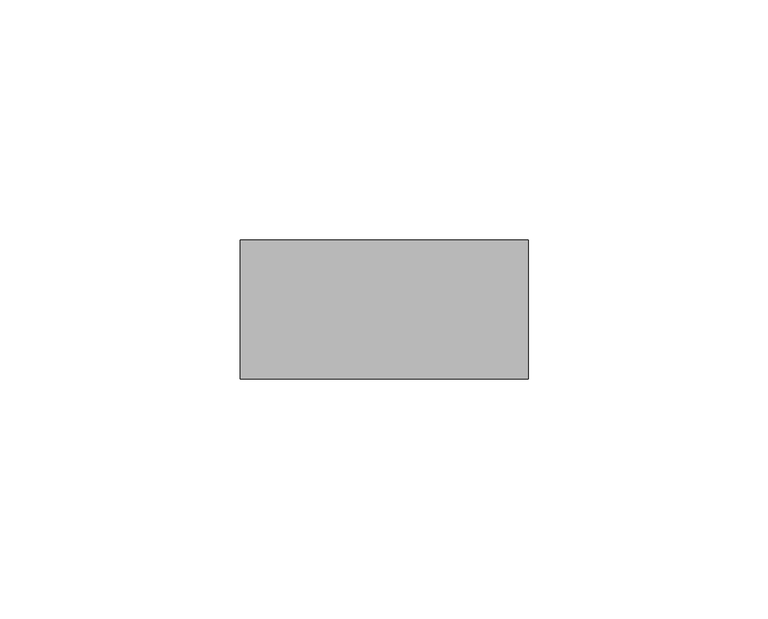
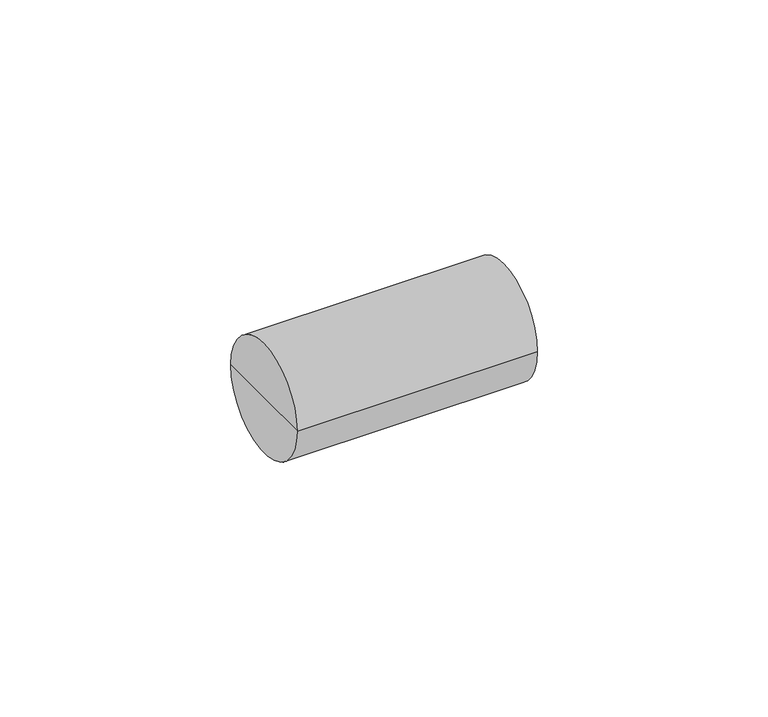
"""IFC4 building model written with IfcOpenShell, lengths in millimetres: cable carrier fitting geometry, Муфта для гофрированных труб, прозрачная GFLEX D ИЭК : CTA10D-GFLEX25-K08-050."""

from ifc_helpers import new_model, si_unit, frame, origin, place, context, project, spatial, circle_curve, source, transform, mapped, element, save
from ifc_brep_helpers import plane_surface, cylinder_surface, advanced_brep


def cable_carrier_fitting_255bd7b2(model_context):
    return source(origin(), model_context, "Body", "AdvancedBrep", [
        advanced_brep(
        [(-30.0, -14.5, 0.0), (-30.0, 14.5, 0.0), (30.0, 14.5, 0.0), (30.0, -14.5, 0.0), (-30.0, 0.0, 0.0), (30.0, 0.0, 0.0)],
        [
            (0, 1, circle_curve(frame((-30.0, 0.0, 0.0), z_axis=(1.0, 0.0, 0.0), x_axis=(0.0, 1.0, 0.0)), 14.5)),
            (1, 2),
            (2, 3, circle_curve(frame((30.0, 0.0, 0.0), z_axis=(-1.0, 0.0, 0.0), x_axis=(0.0, 1.0, 0.0)), 14.5)),
            (3, 0),
            (1, 0, circle_curve(frame((-30.0, 0.0, 0.0), z_axis=(1.0, 0.0, 0.0), x_axis=(0.0, 1.0, 0.0)), 14.5)),
            (3, 2, circle_curve(frame((30.0, 0.0, 0.0), z_axis=(-1.0, 0.0, 0.0), x_axis=(0.0, 1.0, 0.0)), 14.5)),
            (4, 1),
            (0, 4),
            (2, 5),
            (5, 3),
        ],
        [
            cylinder_surface(frame((1955.0, 0.0, 0.0), z_axis=(-1.0, 0.0, 0.0), x_axis=(0.0, 1.0, 0.0)), 14.5),
            plane_surface(frame((-30.0, 0.0, 0.0), z_axis=(-1.0, 0.0, 0.0), x_axis=(0.0, 1.0, 0.0))),
            plane_surface(frame((30.0, 0.0, 0.0), z_axis=(1.0, 0.0, 0.0), x_axis=(0.0, 1.0, 0.0))),
        ],
        [
            (0, [[1, 2, 3, 4]]),
            (0, [[5, -4, 6, -2]]),
            (1, [[7, -1, 8]]),
            (1, [[-8, -5, -7]]),
            (2, [[-3, 9, 10]]),
            (2, [[-6, -10, -9]]),
        ],
    ),
    ])


if __name__ == "__main__":
    model = new_model("IFC4")
    model_context = context("Model", 3, world=origin())
    ifc_project = project(units=[si_unit("LENGTHUNIT", "METRE", prefix="MILLI")], contexts=[model_context])
    site = spatial("IfcSite", under=ifc_project)
    building = spatial("IfcBuilding", under=site)
    placement = place(None, origin())
    cable_carrier_fitting_shape = cable_carrier_fitting_255bd7b2(model_context)
    element("IfcCableCarrierFitting", 1, ObjectType="Муфта для гофрированных труб, прозрачная GFLEX D ИЭК : CTA10D-GFLEX25-K08-050", at=placement, inside=building, context=model_context, shape_type="MappedRepresentation", body=[
        mapped(cable_carrier_fitting_shape, transform((0.0, 0.0, 0.0), x_axis=(1.0, 0.0, 0.0), y_axis=(0.0, 1.0, 0.0), z_axis=(0.0, 0.0, 1.0))),
    ])
    save(model, "model.ifc")
